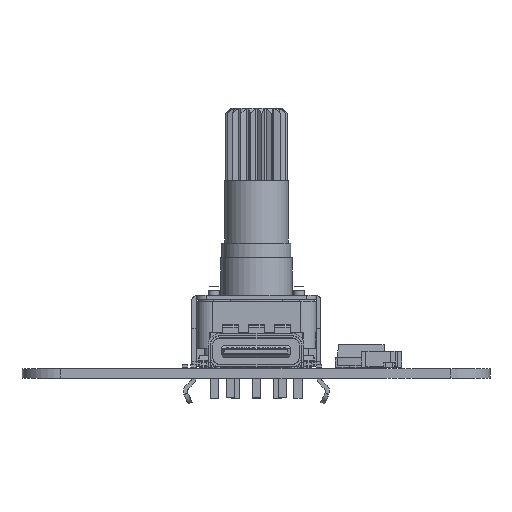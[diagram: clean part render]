
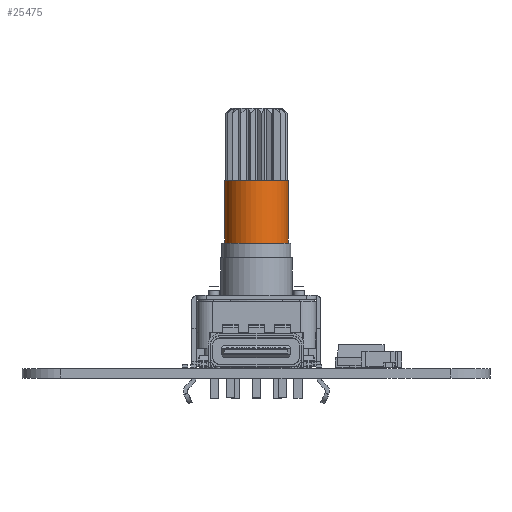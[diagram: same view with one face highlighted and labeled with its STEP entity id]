
A CAD part, left-side view. The second image highlights one B-rep face of the part: STEP entity #25475.
In plain terms, the highlighted cylindrical face has radius 3.05 mm (diameter 6.1 mm), a full revolution.
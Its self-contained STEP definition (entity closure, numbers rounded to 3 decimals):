
#25124 = EDGE_CURVE('',#25125,#25125,#25127,.T.);
#25125 = VERTEX_POINT('',#25126);
#25126 = CARTESIAN_POINT('',(4.287,-0.427,
    -9.365));
#25127 = CIRCLE('',#25128,3.05);
#25128 = AXIS2_PLACEMENT_3D('',#25129,#25130,#25131);
#25129 = CARTESIAN_POINT('',(1.237,-0.427,
    -9.365));
#25130 = DIRECTION('',(0.,0.,1.));
#25131 = DIRECTION('',(1.,0.,-0.));
#25406 = EDGE_CURVE('',#25407,#25407,#25409,.T.);
#25407 = VERTEX_POINT('',#25408);
#25408 = CARTESIAN_POINT('',(4.287,-0.427,
    -17.265));
#25409 = CIRCLE('',#25410,3.05);
#25410 = AXIS2_PLACEMENT_3D('',#25411,#25412,#25413);
#25411 = CARTESIAN_POINT('',(1.237,-0.427,
    -17.265));
#25412 = DIRECTION('',(0.,0.,1.));
#25413 = DIRECTION('',(1.,0.,-0.));
#25475 = ADVANCED_FACE('',(#25476),#25486,.T.);
#25476 = FACE_BOUND('',#25477,.T.);
#25477 = EDGE_LOOP('',(#25478,#25479,#25484,#25485));
#25478 = ORIENTED_EDGE('',*,*,#25124,.F.);
#25479 = ORIENTED_EDGE('',*,*,#25480,.F.);
#25480 = EDGE_CURVE('',#25407,#25125,#25481,.T.);
#25481 = B_SPLINE_CURVE_WITH_KNOTS('',1,(#25482,#25483),.UNSPECIFIED.,
  .F.,.F.,(2,2),(-3.95,3.95),.PIECEWISE_BEZIER_KNOTS.);
#25482 = CARTESIAN_POINT('',(4.287,-0.427,
    -17.265));
#25483 = CARTESIAN_POINT('',(4.287,-0.427,
    -9.365));
#25484 = ORIENTED_EDGE('',*,*,#25406,.T.);
#25485 = ORIENTED_EDGE('',*,*,#25480,.T.);
#25486 = CYLINDRICAL_SURFACE('',#25487,3.05);
#25487 = AXIS2_PLACEMENT_3D('',#25488,#25489,#25490);
#25488 = CARTESIAN_POINT('',(1.237,-0.427,
    -13.315));
#25489 = DIRECTION('',(0.,0.,1.));
#25490 = DIRECTION('',(1.,0.,0.));
